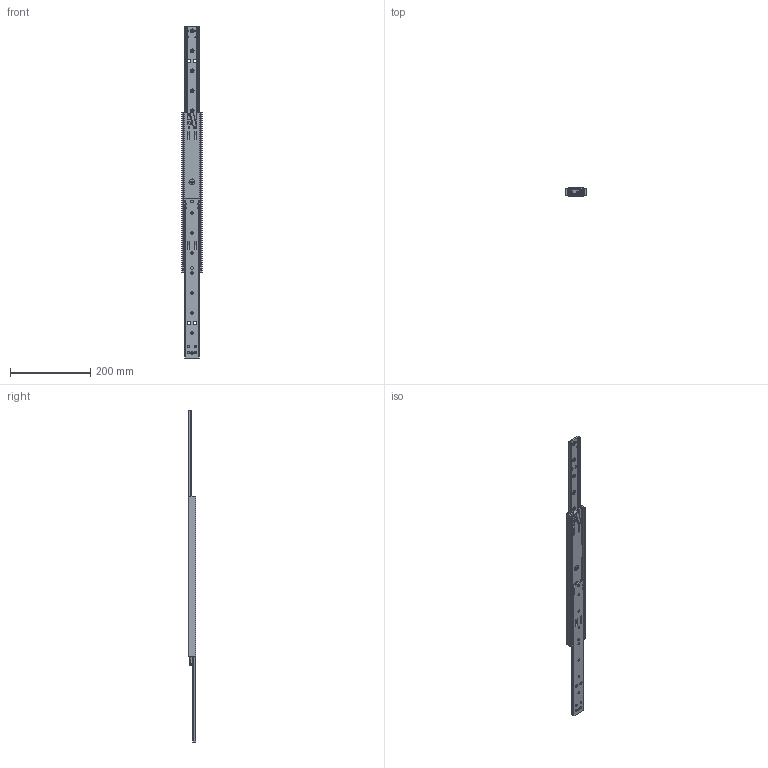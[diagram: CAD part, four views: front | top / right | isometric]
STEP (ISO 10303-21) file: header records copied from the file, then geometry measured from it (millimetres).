
FILE_DESCRIPTION (( 'STEP AP214' ), '1' );
FILE_NAME ('220-400-open.STEP', '2022-03-25T10:37:27', ( '' ), ( '' ), 'SwSTEP 2.0', 'SolidWorks 2021', '' );
FILE_SCHEMA (( 'AUTOMOTIVE_DESIGN' ));
Length unit declared in the file: millimetre
Products named in the file (12): 301_000_008_Fitted.STEP; 61_12719.STEP; 370_002_070.STEP; 61_12276.STEP; 61_12274.STEP; 61_13331_Pin Fitted.STEP; 400_000_004.STEP; 61_12282.STEP; 220-400-open; 61_12279_06.STEP; 61_12280_06_Beam Assembled - Stop Raises .STEP; 61_12278_08.STEP
Assembly tree (27 placements, depth 2):
  220-400-open
    61_12279_06.STEP
    61_12280_06_Beam Assembled - Stop Raises .STEP  x2
    61_13331_Pin Fitted.STEP  x4
    61_12282.STEP
    301_000_008_Fitted.STEP  x2
    61_12274.STEP
    370_002_070.STEP
    61_12719.STEP  x2
    400_000_004.STEP  x8
    61_12278_08.STEP  x4
    61_12276.STEP
Bounding box: 50.7 x 19.75 x 830 mm (x, y, z)
Volume: 231655.9 mm3; surface area: 161494 mm2
Topology: 27 solids, 27 shells, 1281 faces, 3293 edges, 2044 vertices
Faces by surface type: cylinder 554, plane 283, sphere 225, torus 93, cone 80, bspline 46
Entity records: 28980 total; most frequent: CARTESIAN_POINT 8798, DIRECTION 4324, ORIENTED_EDGE 4066, EDGE_CURVE 2033, AXIS2_PLACEMENT_3D 1736, VERTEX_POINT 1255, CIRCLE 951, EDGE_LOOP 912
